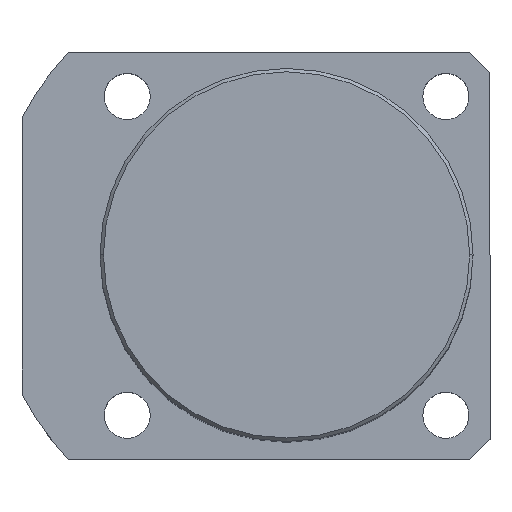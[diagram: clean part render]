
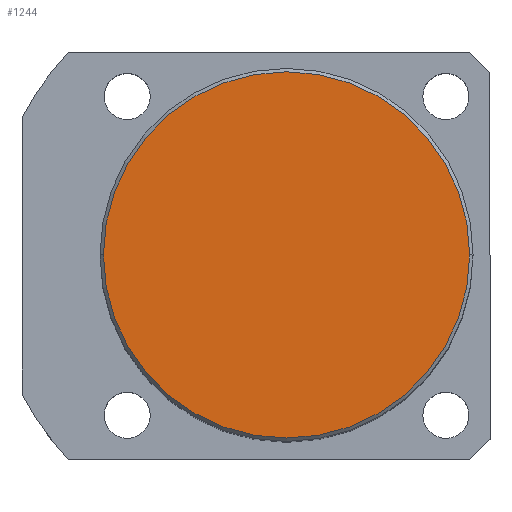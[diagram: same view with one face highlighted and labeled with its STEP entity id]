
A CAD part, top view. The second image highlights one B-rep face of the part: STEP entity #1244.
In plain terms, the highlighted planar face has unit normal (0, 0, 1).
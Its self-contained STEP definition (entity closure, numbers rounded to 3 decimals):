
#253 = PLANE ( 'NONE',  #3529 ) ;
#327 = VERTEX_POINT ( 'NONE', #4911 ) ;
#344 = CIRCLE ( 'NONE', #4617, 27. ) ;
#694 = FACE_OUTER_BOUND ( 'NONE', #1800, .T. ) ;
#821 = ORIENTED_EDGE ( 'NONE', *, *, #1600, .T. ) ;
#872 = CARTESIAN_POINT ( 'NONE',  ( -27., 0., 90. ) ) ;
#1244 = ADVANCED_FACE ( 'NONE', ( #694 ), #253, .T. ) ;
#1275 = CARTESIAN_POINT ( 'NONE',  ( 0., 0., 90. ) ) ;
#1600 = EDGE_CURVE ( 'NONE', #4604, #327, #2640, .T. ) ;
#1672 = DIRECTION ( 'NONE',  ( 1., 0., 0. ) ) ;
#1800 = EDGE_LOOP ( 'NONE', ( #821, #3385 ) ) ;
#1909 = CARTESIAN_POINT ( 'NONE',  ( 0., 0., 90. ) ) ;
#2309 = DIRECTION ( 'NONE',  ( 1., 0., 0. ) ) ;
#2391 = EDGE_CURVE ( 'NONE', #327, #4604, #344, .T. ) ;
#2615 = DIRECTION ( 'NONE',  ( 1., 0., 0. ) ) ;
#2640 = CIRCLE ( 'NONE', #3956, 27. ) ;
#3385 = ORIENTED_EDGE ( 'NONE', *, *, #2391, .T. ) ;
#3529 = AXIS2_PLACEMENT_3D ( 'NONE', #4577, #4959, #2615 ) ;
#3956 = AXIS2_PLACEMENT_3D ( 'NONE', #1275, #4051, #1672 ) ;
#4051 = DIRECTION ( 'NONE',  ( 0., 0., 1. ) ) ;
#4577 = CARTESIAN_POINT ( 'NONE',  ( 0., 0., 90. ) ) ;
#4604 = VERTEX_POINT ( 'NONE', #872 ) ;
#4617 = AXIS2_PLACEMENT_3D ( 'NONE', #1909, #4670, #2309 ) ;
#4670 = DIRECTION ( 'NONE',  ( 0., 0., 1. ) ) ;
#4911 = CARTESIAN_POINT ( 'NONE',  ( 27., 0., 90. ) ) ;
#4959 = DIRECTION ( 'NONE',  ( 0., 0., 1. ) ) ;
